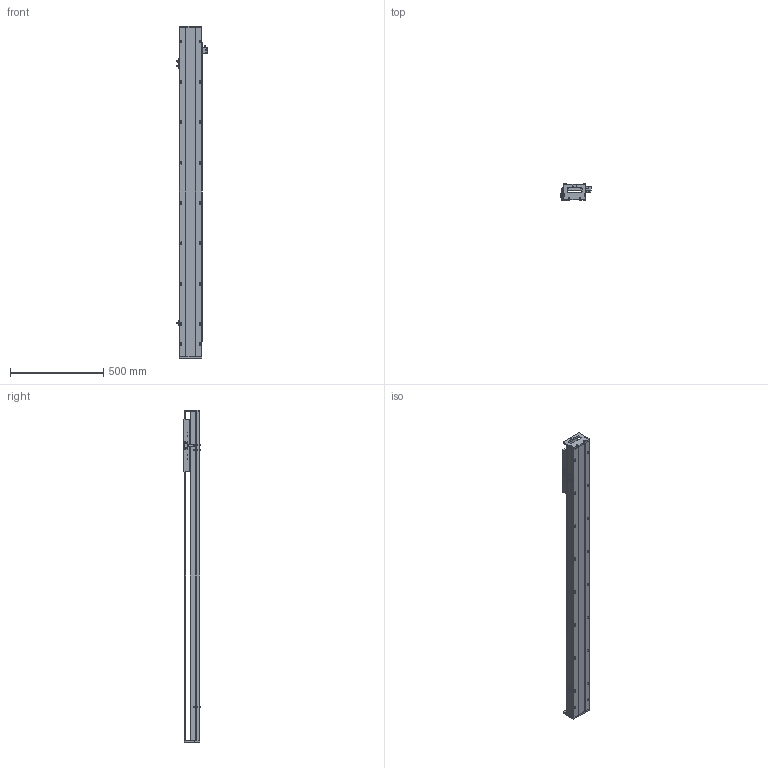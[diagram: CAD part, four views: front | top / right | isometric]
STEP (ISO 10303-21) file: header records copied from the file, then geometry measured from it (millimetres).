
FILE_DESCRIPTION (( 'STEP AP203' ), '1' );
FILE_NAME ('SKR12S-C2-S1396（简）.STEP', '2022-09-26T05:22:00', ( '' ), ( '' ), 'SwSTEP 2.0', 'SolidWorks 2018', '' );
FILE_SCHEMA (( 'CONFIG_CONTROL_DESIGN' ));
Length unit declared in the file: millimetre
Products named in the file (8): 覜茼え; 棠掑假蚾輸; SKR12S-C2-S1396（简）; EE-SX672; SKR12菁釱-C2-S1396(潠); SKR12滑台-280L（简）; SIKO棠掑; SKR12耜啣
Assembly tree (10 placements, depth 2):
  SKR12S-C2-S1396（简）
    SKR12菁釱-C2-S1396(潠)
    SKR12滑台-280L（简）
    SKR12耜啣  x2
    棠掑假蚾輸
    SIKO棠掑
    EE-SX672  x3
    覜茼え
Bounding box: 162.7 x 87.3 x 1776 mm (x, y, z)
Volume: 8018130 mm3; surface area: 1267382.8 mm2
Topology: 11 solids, 11 shells, 1062 faces, 2837 edges, 1791 vertices
Faces by surface type: cylinder 504, plane 412, cone 146
Entity records: 29559 total; most frequent: CARTESIAN_POINT 6223, DIRECTION 4817, ORIENTED_EDGE 4614, EDGE_CURVE 2307, AXIS2_PLACEMENT_3D 1793, VERTEX_POINT 1495, VECTOR 1231, LINE 1231
